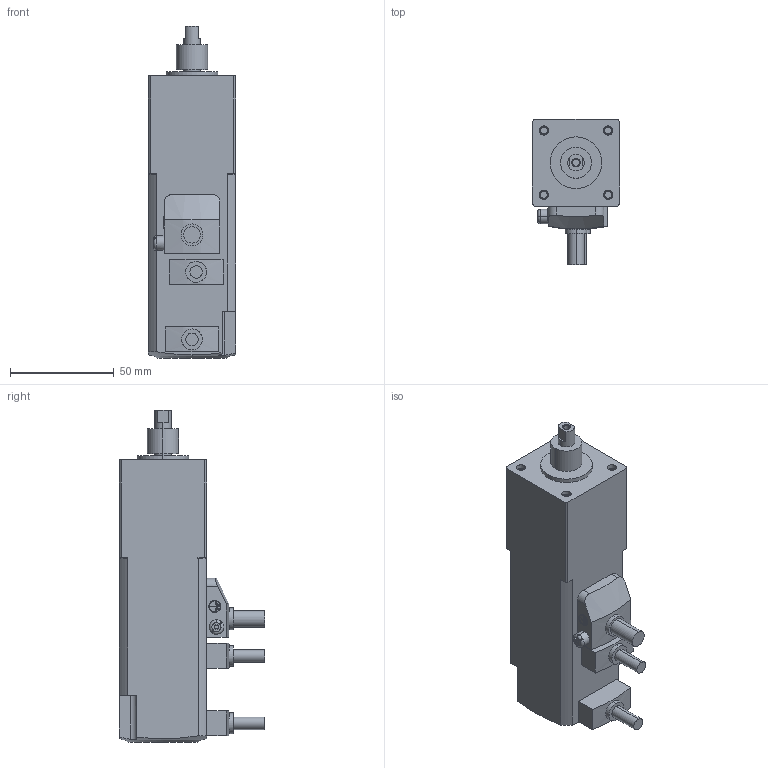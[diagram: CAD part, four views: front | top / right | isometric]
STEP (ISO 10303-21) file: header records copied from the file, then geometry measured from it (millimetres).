
FILE_DESCRIPTION (( 'STEP AP203' ), '1' );
FILE_NAME ('D7597.STEP', '2015-10-22T01:42:36', ( 'om' ), ( 'Hewlett-Packard Company' ), 'SwSTEP 2.0', 'SolidWorks 2014', '' );
FILE_SCHEMA (( 'CONFIG_CONTROL_DESIGN' ));
Length unit declared in the file: millimetre
Products named in the file (3): DRSM42-04A2AZMK_BallScrew; D7597; DRSM42-04A2AZMK_BASE
Assembly tree (2 placements, depth 2):
  D7597
    DRSM42-04A2AZMK_BASE
    DRSM42-04A2AZMK_BallScrew
Bounding box: 42 x 70 x 160.1 mm (x, y, z)
Volume: 249844.8 mm3; surface area: 35727.9 mm2
Topology: 2 solids, 2 shells, 194 faces, 455 edges, 297 vertices
Faces by surface type: plane 95, cylinder 79, cone 14, torus 3, sphere 2, bspline 1
Entity records: 6230 total; most frequent: CARTESIAN_POINT 1318, DIRECTION 1022, ORIENTED_EDGE 910, EDGE_CURVE 455, AXIS2_PLACEMENT_3D 385, VERTEX_POINT 297, VECTOR 252, LINE 252
